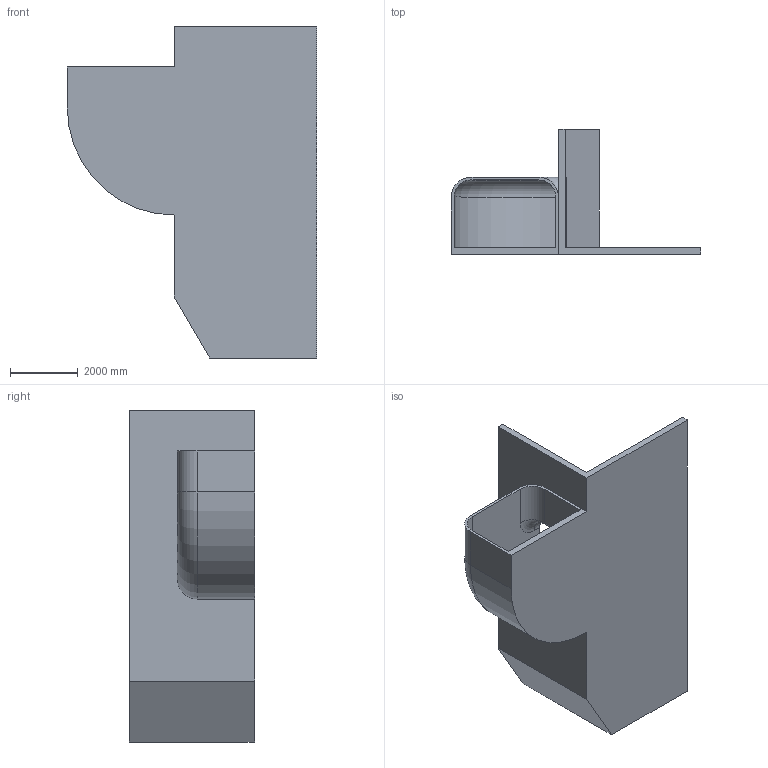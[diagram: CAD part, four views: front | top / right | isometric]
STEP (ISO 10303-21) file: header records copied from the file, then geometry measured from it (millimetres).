
FILE_DESCRIPTION(/* description */ (''),/* implementation_level */ '2;1');
FILE_NAME(/* name */ 'N:\0_Question Bank\Assignment\Inventor\Environment\Part1.stp',/* time_stamp */ '2023-10-13T10:23:41+01:00',/* author */ ('aphee'),/* organization */ (''),/* preprocessor_version */ 'ST-DEVELOPER v18.1',/* originating_system */ 'Autodesk Inventor 2022',/* authorisation */ '');
FILE_SCHEMA (('AUTOMOTIVE_DESIGN { 1 0 10303 214 3 1 1 }'));
Length unit declared in the file: millimetre
Products named in the file (1): Part1
Bounding box: 7360 x 3700 x 9800 mm (x, y, z)
Volume: 18210924840.8 mm3; surface area: 217546429.3 mm2
Topology: 1 solids, 1 shells, 38 faces, 106 edges, 68 vertices
Faces by surface type: plane 23, cylinder 11, torus 3, bspline 1
Entity records: 1270 total; most frequent: CARTESIAN_POINT 220, ORIENTED_EDGE 210, DIRECTION 209, EDGE_CURVE 105, LINE 77, VECTOR 77, VERTEX_POINT 68, AXIS2_PLACEMENT_3D 66
